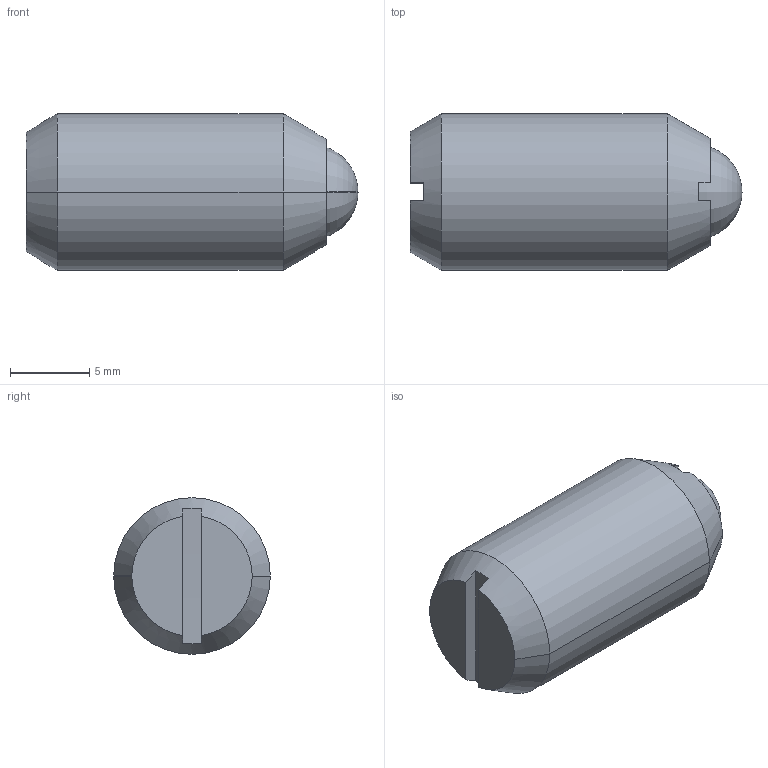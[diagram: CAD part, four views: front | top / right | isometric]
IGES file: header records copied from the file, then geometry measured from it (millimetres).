
Start section:  PTC IGES file: bm10a-part-3d.igs
Global section: file name: bm10a-part-3d.igs; native system: Pro/ENGINEER by Parametric Technology Corporation; preprocessor: 2002350; author: chant; organization: Unknown; date: 070201.140341; units: inch
Bounding box: 21.01 x 9.91 x 9.91 mm (x, y, z)
Surface area: 1035.7 mm2 (no closed solid volume)
Topology: 0 solids, 0 shells, 24 faces, 174 edges, 220 vertices
Faces by surface type: revolution 13, bspline 11
